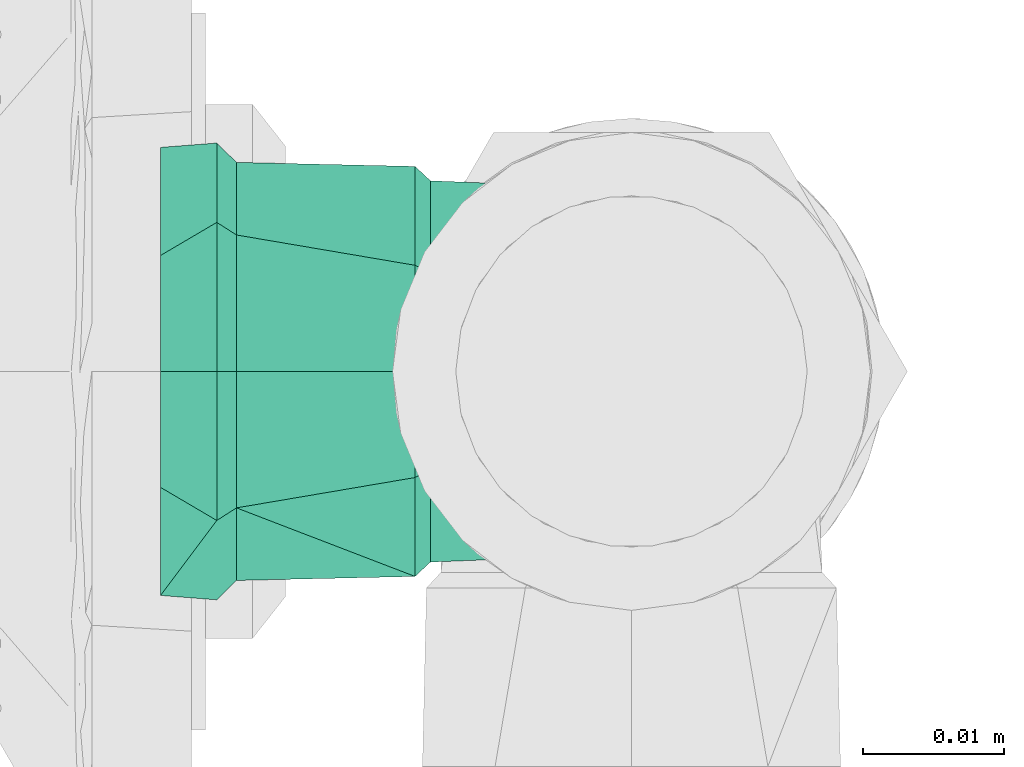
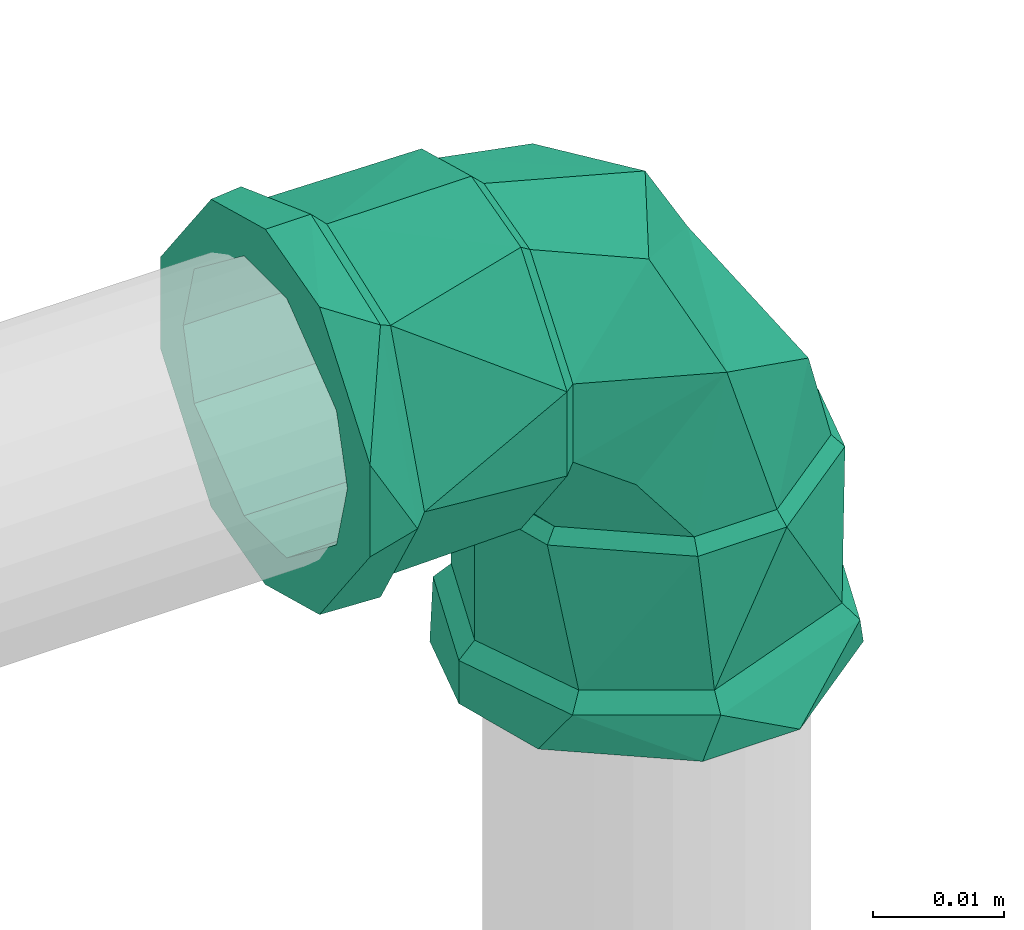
# One storey, part 375 of 589: 1 flow fitting.
"""IFC2X3 building model written with IfcOpenShell, lengths in millimetres."""

from ifc_helpers import new_model, entity, si_unit, converted_unit, derived_unit, direction, frame, origin, place, context, subcontext, project, spatial, faceted_brep, source, transform, mapped, material, type_object, type_shapes, element, save


model = new_model("IFC2X3")

# Units and contexts
model_context = context("Model", 3, precision=0.01, world=origin(), true_north=direction((6.123031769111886e-17, 1.0)))
body_context = subcontext(model_context, "Body", "Model", "MODEL_VIEW")
ifc_project = project(units=[si_unit("LENGTHUNIT", "METRE", prefix="MILLI"), si_unit("AREAUNIT", "SQUARE_METRE"), si_unit("VOLUMEUNIT", "CUBIC_METRE"), converted_unit("PLANEANGLEUNIT", "DEGREE", entity("IfcRatioMeasure", 0.017453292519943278), si_unit("PLANEANGLEUNIT", "RADIAN"), dimensions=[0, 0, 0, 0, 0, 0, 0]), si_unit("MASSUNIT", "GRAM", prefix="KILO"), derived_unit("MASSDENSITYUNIT", [(si_unit("MASSUNIT", "GRAM", prefix="KILO"), 1), (si_unit("LENGTHUNIT", "METRE"), -3)]), derived_unit("IONCONCENTRATIONUNIT", [(si_unit("MASSUNIT", "GRAM", prefix="KILO"), 1), (si_unit("LENGTHUNIT", "METRE"), -3)]), derived_unit("MOMENTOFINERTIAUNIT", [(si_unit("LENGTHUNIT", "METRE"), 4)]), si_unit("TIMEUNIT", "SECOND"), si_unit("FREQUENCYUNIT", "HERTZ"), si_unit("THERMODYNAMICTEMPERATUREUNIT", "DEGREE_CELSIUS"), derived_unit("THERMALTRANSMITTANCEUNIT", [(si_unit("MASSUNIT", "GRAM", prefix="KILO"), 1), (si_unit("THERMODYNAMICTEMPERATUREUNIT", "KELVIN"), -1), (si_unit("TIMEUNIT", "SECOND"), -3)]), derived_unit("THERMALCONDUCTANCEUNIT", [(si_unit("MASSUNIT", "GRAM", prefix="KILO"), 1), (si_unit("THERMODYNAMICTEMPERATUREUNIT", "KELVIN"), -1), (si_unit("TIMEUNIT", "SECOND"), -3), (si_unit("LENGTHUNIT", "METRE"), 1)]), derived_unit("VOLUMETRICFLOWRATEUNIT", [(si_unit("LENGTHUNIT", "METRE"), 3), (si_unit("TIMEUNIT", "SECOND"), -1)]), derived_unit("MASSFLOWRATEUNIT", [(si_unit("MASSUNIT", "GRAM", prefix="KILO"), 1), (si_unit("TIMEUNIT", "SECOND"), -1)]), derived_unit("ROTATIONALFREQUENCYUNIT", [(si_unit("TIMEUNIT", "SECOND"), -1)]), si_unit("ELECTRICCURRENTUNIT", "AMPERE"), si_unit("ELECTRICVOLTAGEUNIT", "VOLT"), si_unit("POWERUNIT", "WATT"), si_unit("FORCEUNIT", "NEWTON", prefix="KILO"), si_unit("ILLUMINANCEUNIT", "LUX"), si_unit("LUMINOUSFLUXUNIT", "LUMEN"), si_unit("LUMINOUSINTENSITYUNIT", "CANDELA"), derived_unit("USERDEFINED", [(si_unit("MASSUNIT", "GRAM", prefix="KILO"), -1), (si_unit("LENGTHUNIT", "METRE"), -2), (si_unit("TIMEUNIT", "SECOND"), 3), (si_unit("LUMINOUSFLUXUNIT", "LUMEN"), 1)]), derived_unit("USERDEFINED", [(si_unit("MASSUNIT", "GRAM", prefix="KILO"), 1), (si_unit("TIMEUNIT", "SECOND"), -3), (si_unit("LENGTHUNIT", "METRE"), 3), (si_unit("ELECTRICCURRENTUNIT", "AMPERE"), -2)]), derived_unit("SOUNDPOWERUNIT", [(si_unit("MASSUNIT", "GRAM", prefix="KILO"), 1), (si_unit("TIMEUNIT", "SECOND"), -3), (si_unit("LENGTHUNIT", "METRE"), 2)]), derived_unit("SOUNDPRESSUREUNIT", [(si_unit("MASSUNIT", "GRAM", prefix="KILO"), 1), (si_unit("LENGTHUNIT", "METRE"), -1), (si_unit("TIMEUNIT", "SECOND"), -2)]), derived_unit("LINEARVELOCITYUNIT", [(si_unit("LENGTHUNIT", "METRE"), 1), (si_unit("TIMEUNIT", "SECOND"), -1)]), si_unit("PRESSUREUNIT", "PASCAL"), derived_unit("USERDEFINED", [(si_unit("MASSUNIT", "GRAM", prefix="KILO"), 1), (si_unit("LENGTHUNIT", "METRE"), -2), (si_unit("TIMEUNIT", "SECOND"), -2)]), derived_unit("LINEARFORCEUNIT", [(si_unit("MASSUNIT", "GRAM", prefix="KILO"), 1), (si_unit("TIMEUNIT", "SECOND"), -2)]), derived_unit("PLANARFORCEUNIT", [(si_unit("MASSUNIT", "GRAM", prefix="KILO"), 1), (si_unit("LENGTHUNIT", "METRE"), -1), (si_unit("TIMEUNIT", "SECOND"), -2)]), derived_unit("SPECIFICHEATCAPACITYUNIT", [(si_unit("THERMODYNAMICTEMPERATUREUNIT", "KELVIN"), -1), (si_unit("LENGTHUNIT", "METRE"), 2), (si_unit("TIMEUNIT", "SECOND"), -2)]), derived_unit("HEATINGVALUEUNIT", [(si_unit("LENGTHUNIT", "METRE"), 2), (si_unit("TIMEUNIT", "SECOND"), -2)]), derived_unit("VAPORPERMEABILITYUNIT", [(si_unit("LENGTHUNIT", "METRE"), -1), (si_unit("TIMEUNIT", "SECOND"), 1)]), derived_unit("DYNAMICVISCOSITYUNIT", [(si_unit("MASSUNIT", "GRAM", prefix="KILO"), 1), (si_unit("TIMEUNIT", "SECOND"), -1), (si_unit("LENGTHUNIT", "METRE"), -1)]), derived_unit("THERMALEXPANSIONCOEFFICIENTUNIT", [(si_unit("THERMODYNAMICTEMPERATUREUNIT", "KELVIN"), -1)]), derived_unit("MODULUSOFELASTICITYUNIT", [(si_unit("MASSUNIT", "GRAM", prefix="KILO"), 1), (si_unit("LENGTHUNIT", "METRE"), -1), (si_unit("TIMEUNIT", "SECOND"), -2)]), derived_unit("ISOTHERMALMOISTURECAPACITYUNIT", [(si_unit("LENGTHUNIT", "METRE"), 3), (si_unit("MASSUNIT", "GRAM", prefix="KILO"), -1)]), derived_unit("MOISTUREDIFFUSIVITYUNIT", [(si_unit("TIMEUNIT", "SECOND"), -1), (si_unit("LENGTHUNIT", "METRE"), 2)])], contexts=[model_context])

# Site, building, storey
site_placement = place(None, origin())
site = spatial("IfcSite", under=ifc_project, at=site_placement, Name="Default", CompositionType="ELEMENT")
building_placement = place(site_placement, origin())
building = spatial("IfcBuilding", under=site, at=building_placement, CompositionType="ELEMENT")
storey_placement = place(building_placement, frame((0.0, 0.0, 100.0)))
storey = spatial("IfcBuildingStorey", under=building, at=storey_placement, Name="TÉRREO", CompositionType="ELEMENT", Elevation=100.0)

# Flow fitting
ifc_material = material(Name="PVC Marrom")
pipe_fitting_type = type_object("IfcPipeFittingType", Name="PVC Marrom Soldável_Joelho 45°_90°_Rodrigo MEP:Joelho", PredefinedType="NOTDEFINED", material=ifc_material)
shared_shape = source(origin(), body_context, "Body", "Brep", [
    faceted_brep([(3.908167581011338, 15.40000000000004, 14.585479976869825), (13.076983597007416, 15.40000000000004, 7.549999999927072), (15.099999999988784, 15.40000000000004, 0.0), (13.076983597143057, 15.40000000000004, -7.55000000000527), (3.9081675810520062, 15.40000000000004, -14.585479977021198), (-3.9081675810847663, 15.40000000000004, -14.585479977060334), (-13.076983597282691, 15.40000000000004, -7.550000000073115), (-15.100000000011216, 15.40000000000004, 0.0), (-13.076983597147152, 15.40000000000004, 7.549999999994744), (-3.908167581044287, 15.40000000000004, 14.585479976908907), (-3.633819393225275, 14.30000000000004, 13.561598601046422), (-12.158996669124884, 14.30000000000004, 7.0199999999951), (-14.040000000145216, 14.30000000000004, 0.0), (-12.158996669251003, 14.30000000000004, -7.020000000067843), (-3.6338193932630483, 14.30000000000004, -13.561598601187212), (3.6338193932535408, 14.30000000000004, -13.561598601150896), (12.158996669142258, 14.30000000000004, -7.020000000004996), (14.039999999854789, 14.30000000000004, 0.0), (12.158996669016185, 14.30000000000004, 7.0199999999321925), (3.6338193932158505, 14.30000000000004, 13.561598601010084)], [[[0, 1, 2, 3, 4, 5, 6, 7, 8, 9]], [[10, 11, 12, 13, 14, 15, 16, 17, 18, 19]], [[3, 17, 16]], [[4, 3, 16, 15]], [[3, 2, 17]], [[15, 14, 5, 4]], [[6, 5, 14, 13]], [[7, 13, 12]], [[7, 6, 13]], [[8, 12, 11]], [[9, 8, 11, 10]], [[8, 7, 12]], [[10, 19, 0, 9]], [[1, 0, 19, 18]], [[2, 18, 17]], [[2, 1, 18]]]),
    faceted_brep([(-15.399999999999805, 3.908167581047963, 14.585479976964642), (-15.399999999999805, 13.076983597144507, 7.549999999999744), (-15.399999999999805, 15.100000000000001, 0.0), (-15.399999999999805, 13.076983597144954, -7.54999999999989), (-15.399999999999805, 3.9081675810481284, -14.58547997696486), (-15.399999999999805, -3.9081675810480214, -14.585479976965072), (-15.399999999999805, -13.0769835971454, -7.550000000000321), (-15.399999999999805, -15.099999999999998, 0.0), (-15.399999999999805, -13.076983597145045, 7.550000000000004), (-15.399999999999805, -3.908167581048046, 14.585479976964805), (-14.299999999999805, 12.158996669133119, 7.019999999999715), (-14.299999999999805, 3.6338193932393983, 13.561598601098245), (-14.299999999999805, -3.633819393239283, 13.56159860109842), (-14.299999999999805, -12.15899666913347, 7.020000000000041), (-14.299999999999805, -14.040000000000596, 0.0), (-14.299999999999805, -12.158996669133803, -7.020000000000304), (-14.299999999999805, -3.63381939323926, -13.561598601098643), (-14.299999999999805, 3.6338193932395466, -13.56159860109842), (-14.299999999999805, 12.158996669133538, -7.019999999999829), (-14.299999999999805, 14.03999999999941, 0.0)], [[[0, 1, 2, 3, 4, 5, 6, 7, 8, 9]], [[10, 11, 12, 13, 14, 15, 16, 17, 18, 19]], [[3, 2, 19, 18]], [[4, 3, 18, 17]], [[17, 16, 5, 4]], [[6, 5, 16, 15]], [[7, 6, 15, 14]], [[8, 7, 14, 13]], [[9, 8, 13, 12]], [[12, 11, 0, 9]], [[1, 0, 11, 10]], [[2, 1, 10, 19]]]),
    faceted_brep([(-33.4999999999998, -4.2705142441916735, -15.937776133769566), (-33.4999999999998, -6.250000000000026, -10.825317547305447), (-33.4999999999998, 0.0, -12.5), (-33.4999999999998, -14.289419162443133, -8.25000000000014), (-33.4999999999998, 4.270514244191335, -15.937776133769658), (-33.4999999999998, -12.074072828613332, -3.23523806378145), (-33.4999999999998, -16.499999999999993, 0.0), (-33.4999999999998, -12.074072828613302, 3.2352380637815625), (-33.4999999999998, -14.289419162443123, 8.249999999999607), (-33.4999999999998, -6.249999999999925, 10.825317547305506), (-33.4999999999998, -4.27051424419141, 15.937776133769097), (-33.4999999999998, 0.0, 12.5), (-33.4999999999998, 4.270514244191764, 15.937776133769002), (-33.4999999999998, 6.249999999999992, 10.825317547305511), (-33.4999999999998, 14.28941916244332, 8.249999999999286), (-33.4999999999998, 12.074072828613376, 3.2352380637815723), (-33.4999999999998, 16.500000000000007, 0.0), (-33.4999999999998, 12.074072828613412, -3.235238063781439), (-33.4999999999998, 14.289419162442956, -8.250000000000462), (-33.4999999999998, 6.250000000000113, -10.82531754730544), (-29.499999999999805, 16.5, 0.0), (-29.500000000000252, 12.639142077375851, 10.606700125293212), (-29.50000000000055, 2.8633833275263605, 16.249647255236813), (-29.50000000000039, -12.64180232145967, 10.603529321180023), (-29.499999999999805, -16.499999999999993, 0.0), (-29.500000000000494, -4.889209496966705, 13.426588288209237), (-29.49999999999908, -12.641802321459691, -10.603529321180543), (-29.49999999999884, -2.8674593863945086, -16.24892847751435), (-29.499999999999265, 12.639142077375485, -10.606700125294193), (-29.499999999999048, 4.885841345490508, -13.427814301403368), (-28.099999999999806, -15.099999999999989, 0.0), (-28.10000000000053, -11.56916454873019, 9.703835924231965), (-28.100000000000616, -4.474367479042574, 12.287362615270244), (-28.1000000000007, 2.6204295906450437, 14.870889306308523), (-28.100000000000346, 11.566730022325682, 9.706737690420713), (-28.09999999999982, 15.099999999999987, 0.0), (-28.099999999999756, 11.566730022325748, -9.706737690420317), (-28.09999999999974, 4.4712851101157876, -12.28848460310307), (-28.09999999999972, -2.6241598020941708, -14.870231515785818), (-28.09999999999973, -11.569164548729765, -9.703835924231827), (-15.399999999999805, 0.0, -12.5), (-15.399999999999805, -6.250000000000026, -10.825317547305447), (-15.399999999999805, -3.908167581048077, -14.585479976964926), (-15.399999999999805, 3.9081675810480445, -14.585479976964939), (-15.399999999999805, 6.250000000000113, -10.82531754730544), (-15.399999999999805, -13.076983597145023, -7.549999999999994), (-15.399999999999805, -12.074072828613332, -3.23523806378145), (-15.399999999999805, -15.099999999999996, 0.0), (-15.399999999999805, -12.074072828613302, 3.2352380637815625), (-15.399999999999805, -13.076983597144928, 7.550000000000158), (-15.399999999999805, -6.249999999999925, 10.825317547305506), (-15.399999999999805, -3.9081675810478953, 14.585479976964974), (-15.399999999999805, 0.0, 12.5), (-15.399999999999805, 3.9081675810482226, 14.58547997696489), (-15.399999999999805, 6.249999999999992, 10.825317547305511), (-15.399999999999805, 13.076983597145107, 7.549999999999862), (-15.399999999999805, 12.074072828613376, 3.2352380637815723), (-15.399999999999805, 15.100000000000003, 0.0), (-15.399999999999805, 12.074072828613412, -3.235238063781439), (-15.399999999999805, 13.076983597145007, -7.550000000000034)], [[[0, 1, 2]], [[1, 0, 3]], [[2, 4, 0]], [[3, 5, 1]], [[3, 6, 5]], [[5, 6, 7]], [[8, 7, 6]], [[7, 8, 9]], [[10, 9, 8]], [[9, 10, 11]], [[11, 10, 12]], [[12, 13, 11]], [[14, 13, 12]], [[13, 14, 15]], [[16, 15, 14]], [[16, 17, 15]], [[18, 17, 16]], [[19, 17, 18]], [[19, 18, 4]], [[4, 2, 19]], [[16, 14, 20]], [[14, 21, 20]], [[21, 14, 12]], [[21, 12, 22]], [[23, 10, 8]], [[24, 8, 6]], [[10, 23, 25, 22]], [[23, 8, 24]], [[10, 22, 12]], [[6, 3, 24]], [[3, 26, 24]], [[26, 3, 0]], [[26, 0, 27]], [[28, 4, 18]], [[20, 18, 16]], [[4, 28, 29, 27]], [[28, 18, 20]], [[4, 27, 0]], [[30, 31, 23, 24]], [[31, 32, 33, 22, 25, 23]], [[34, 35, 20, 21]], [[34, 21, 22, 33]], [[35, 36, 28, 20]], [[36, 37, 38, 27, 29, 28]], [[39, 30, 24, 26]], [[39, 26, 27, 38]], [[40, 41, 42]], [[42, 43, 40]], [[44, 40, 43]], [[45, 42, 41]], [[41, 46, 45]], [[46, 47, 45]], [[48, 47, 46]], [[47, 48, 49]], [[50, 49, 48]], [[49, 50, 51]], [[52, 51, 50]], [[53, 51, 52]], [[52, 54, 53]], [[53, 54, 55]], [[56, 55, 54]], [[55, 56, 57]], [[56, 58, 57]], [[59, 58, 44]], [[57, 58, 59]], [[43, 59, 44]], [[35, 34, 55]], [[35, 55, 57]], [[55, 34, 53]], [[34, 33, 53]], [[51, 33, 32, 31]], [[49, 31, 30]], [[31, 49, 51]], [[49, 30, 47]], [[33, 51, 53]], [[30, 39, 45]], [[30, 45, 47]], [[45, 39, 42]], [[39, 38, 42]], [[43, 38, 37, 36]], [[59, 36, 35]], [[36, 59, 43]], [[59, 35, 57]], [[38, 43, 42]], [[9, 11, 52, 50]], [[7, 9, 50, 48]], [[48, 46, 5, 7]], [[1, 5, 46, 41]], [[2, 1, 41, 40]], [[19, 2, 40, 44]], [[17, 19, 44, 58]], [[58, 56, 15, 17]], [[13, 15, 56, 54]], [[11, 13, 54, 52]]]),
    faceted_brep([(-14.299999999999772, -3.6338193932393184, -13.561598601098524), (-14.299999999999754, -12.158996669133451, -7.020000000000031), (-14.29999999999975, -14.039999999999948, 0.0), (-14.299999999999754, -12.158996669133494, 7.019999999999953), (-14.299999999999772, -3.6338193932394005, 13.561598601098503), (-14.299999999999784, 3.633819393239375, 13.561598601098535), (-14.299999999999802, 12.158996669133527, 7.0200000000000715), (-14.299999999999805, 14.04000000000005, 0.0), (-14.299999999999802, 12.158996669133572, -7.019999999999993), (-14.299999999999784, 3.63381939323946, -13.561598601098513), (3.633819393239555, 14.29999999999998, -13.561598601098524), (-3.633819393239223, 14.300000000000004, -13.561598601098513), (-12.158996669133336, 14.300000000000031, -7.019999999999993), (-14.039999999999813, 14.300000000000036, 0.0), (-12.158996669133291, 14.300000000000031, 7.0200000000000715), (-3.6338193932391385, 14.300000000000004, 13.561598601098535), (3.6338193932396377, 14.29999999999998, 13.561598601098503), (12.158996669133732, 14.299999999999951, 7.019999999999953), (14.040000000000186, 14.299999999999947, 0.0), (12.158996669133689, 14.299999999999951, -7.020000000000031), (-0.45476175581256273, 0.4547603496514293, 13.009299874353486), (-4.991226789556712, -9.102895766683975, 8.866254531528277), (-2.689013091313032, -7.336393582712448, 0.0), (3.7770734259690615, -3.6031967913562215, 0.0), (9.09033094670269, 4.905775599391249, 8.841582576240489), (10.243159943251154, 0.13000000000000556, 0.0), (-14.116152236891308, 14.116152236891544, 0.0), (-8.296884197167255, 8.29688403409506, 12.78130953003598), (-0.454761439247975, 0.45476027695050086, -13.009299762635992), (-8.296884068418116, 8.296883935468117, -12.78130960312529), (9.090330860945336, 4.90577564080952, -8.84158269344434), (-4.991226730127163, -9.10289574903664, -8.866254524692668)], [[[0, 1, 2, 3, 4, 5, 6, 7, 8, 9]], [[10, 11, 12, 13, 14, 15, 16, 17, 18, 19]], [[4, 20, 5]], [[21, 3, 22]], [[20, 4, 21]], [[21, 22, 23]], [[17, 24, 25]], [[26, 6, 14]], [[23, 20, 21]], [[26, 7, 6]], [[6, 5, 27]], [[3, 2, 22]], [[20, 23, 24]], [[25, 18, 17]], [[20, 27, 5]], [[16, 20, 24]], [[17, 16, 24]], [[6, 27, 14]], [[26, 14, 13]], [[21, 4, 3]], [[27, 15, 14]], [[27, 20, 15]], [[23, 25, 24]], [[15, 20, 16]], [[8, 7, 26]], [[28, 29, 11]], [[28, 10, 30]], [[8, 12, 29]], [[31, 22, 1]], [[31, 23, 22]], [[28, 9, 29]], [[19, 30, 10]], [[0, 28, 31]], [[1, 22, 2]], [[8, 26, 12]], [[12, 11, 29]], [[8, 29, 9]], [[31, 1, 0]], [[10, 28, 11]], [[30, 19, 25]], [[0, 9, 28]], [[19, 18, 25]], [[25, 23, 30]], [[23, 31, 28]], [[30, 23, 28]], [[12, 26, 13]]]),
    faceted_brep([(0.0, 15.40000000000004, -12.5), (-6.249999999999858, 15.40000000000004, -10.825317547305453), (-3.908167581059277, 15.40000000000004, -14.585479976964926), (3.9081675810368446, 15.40000000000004, -14.585479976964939), (6.250000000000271, 15.40000000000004, -10.82531754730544), (-13.076983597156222, 15.40000000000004, -7.549999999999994), (-12.07407282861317, 15.40000000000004, -3.235238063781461), (-15.100000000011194, 15.40000000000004, 0.0), (-12.074072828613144, 15.40000000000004, 3.2352380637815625), (-13.076983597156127, 15.40000000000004, 7.550000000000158), (-6.249999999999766, 15.40000000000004, 10.825317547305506), (-3.9081675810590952, 15.40000000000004, 14.585479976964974), (0.0, 15.40000000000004, 12.5), (3.9081675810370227, 15.40000000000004, 14.58547997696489), (6.250000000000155, 15.40000000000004, 10.825317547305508), (13.076983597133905, 15.40000000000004, 7.549999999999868), (12.074072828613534, 15.40000000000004, 3.2352380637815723), (15.099999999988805, 15.40000000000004, 0.0), (12.07407282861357, 15.40000000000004, -3.235238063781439), (13.07698359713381, 15.40000000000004, -7.550000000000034), (15.099999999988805, 28.10000000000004, 0.0), (11.56673002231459, 28.100000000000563, 9.706737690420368), (4.471285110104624, 28.10000000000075, 12.288484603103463), (-2.624159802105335, 28.100000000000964, 14.870231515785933), (-11.569164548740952, 28.10000000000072, 9.703835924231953), (-15.100000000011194, 28.10000000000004, 0.0), (-11.569164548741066, 28.10000000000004, -9.703835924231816), (-4.474367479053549, 28.10000000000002, -12.287362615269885), (2.6204295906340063, 28.099999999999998, -14.870889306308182), (11.566730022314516, 28.10000000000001, -9.706737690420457), (-12.639142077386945, 29.50000000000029, 10.606700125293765), (-16.50000000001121, 29.500000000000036, 0.0), (-2.8633833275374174, 29.50000000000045, 16.249647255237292), (12.641802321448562, 29.500000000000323, 10.603529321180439), (4.889209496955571, 29.500000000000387, 13.426588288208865), (16.499999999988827, 29.50000000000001, 0.0), (12.64180232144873, 29.500000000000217, -10.603529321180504), (2.867459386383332, 29.500000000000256, -16.24892847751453), (-12.639142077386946, 29.500000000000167, -10.606700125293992), (-4.885841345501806, 29.500000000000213, -13.427814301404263), (-4.270514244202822, 33.50000000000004, -15.937776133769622), (-6.249999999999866, 33.50000000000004, -10.825317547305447), (0.0, 33.50000000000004, -12.5), (-14.289419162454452, 33.50000000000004, -8.249999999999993), (4.270514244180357, 33.50000000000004, -15.937776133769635), (-12.074072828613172, 33.50000000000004, -3.23523806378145), (-16.50000000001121, 33.50000000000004, 0.0), (-12.074072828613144, 33.50000000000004, 3.2352380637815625), (-14.28941916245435, 33.50000000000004, 8.250000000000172), (-6.2499999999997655, 33.50000000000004, 10.825317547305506), (-4.270514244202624, 33.50000000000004, 15.937776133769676), (0.0, 33.50000000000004, 12.5), (4.270514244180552, 33.50000000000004, 15.937776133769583), (6.250000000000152, 33.50000000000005, 10.825317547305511), (14.289419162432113, 33.50000000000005, 8.249999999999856), (12.074072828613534, 33.50000000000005, 3.2352380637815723), (16.49999999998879, 33.50000000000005, 0.0), (12.07407282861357, 33.50000000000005, -3.235238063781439), (14.289419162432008, 33.50000000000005, -8.250000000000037), (6.250000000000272, 33.50000000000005, -10.82531754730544)], [[[0, 1, 2]], [[2, 3, 0]], [[4, 0, 3]], [[5, 2, 1]], [[1, 6, 5]], [[6, 7, 5]], [[8, 7, 6]], [[7, 8, 9]], [[10, 9, 8]], [[9, 10, 11]], [[12, 11, 10]], [[13, 11, 12]], [[12, 14, 13]], [[13, 14, 15]], [[16, 15, 14]], [[15, 16, 17]], [[16, 18, 17]], [[19, 18, 4]], [[17, 18, 19]], [[3, 19, 4]], [[20, 21, 15]], [[20, 15, 17]], [[15, 21, 13]], [[13, 21, 22, 23]], [[11, 23, 24]], [[9, 24, 25]], [[24, 9, 11]], [[9, 25, 7]], [[23, 11, 13]], [[25, 26, 5]], [[25, 5, 7]], [[5, 26, 2]], [[2, 26, 27, 28]], [[3, 28, 29]], [[19, 29, 20]], [[29, 19, 3]], [[19, 20, 17]], [[28, 3, 2]], [[24, 23, 30]], [[25, 24, 31]], [[31, 24, 30]], [[23, 32, 30]], [[21, 20, 33]], [[21, 33, 34]], [[22, 32, 23]], [[35, 33, 20]], [[32, 22, 34]], [[22, 21, 34]], [[20, 29, 36]], [[36, 35, 20]], [[37, 36, 29]], [[38, 39, 27]], [[29, 28, 37]], [[26, 25, 31]], [[38, 27, 26]], [[38, 26, 31]], [[28, 39, 37]], [[39, 28, 27]], [[40, 41, 42]], [[41, 40, 43]], [[42, 44, 40]], [[43, 45, 41]], [[43, 46, 45]], [[45, 46, 47]], [[48, 47, 46]], [[47, 48, 49]], [[50, 49, 48]], [[49, 50, 51]], [[51, 50, 52]], [[52, 53, 51]], [[54, 53, 52]], [[53, 54, 55]], [[56, 55, 54]], [[56, 57, 55]], [[58, 57, 56]], [[59, 57, 58]], [[59, 58, 44]], [[44, 42, 59]], [[56, 54, 35]], [[54, 33, 35]], [[33, 54, 52]], [[52, 32, 34, 33]], [[30, 50, 48]], [[31, 48, 46]], [[50, 30, 32]], [[30, 48, 31]], [[50, 32, 52]], [[46, 43, 31]], [[43, 38, 31]], [[38, 43, 40]], [[40, 37, 39, 38]], [[36, 44, 58]], [[35, 58, 56]], [[44, 36, 37]], [[36, 58, 35]], [[44, 37, 40]], [[49, 51, 12, 10]], [[47, 49, 10, 8]], [[8, 6, 45, 47]], [[41, 45, 6, 1]], [[42, 41, 1, 0]], [[59, 42, 0, 4]], [[57, 59, 4, 18]], [[18, 16, 55, 57]], [[53, 55, 16, 14]], [[51, 53, 14, 12]]]),
])
type_shapes(pipe_fitting_type, [shared_shape])
flow_fitting_placement = place(storey_placement, frame((-2746.898265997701, 1275.9612263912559, 3000.0), z_axis=(0.0, -1.0, 0.0), x_axis=(0.0, 0.0, 1.0)))
element("IfcFlowFitting", 1, at=flow_fitting_placement, inside=storey, type_object=pipe_fitting_type, material=ifc_material, Name="PVC Marrom Soldável_Joelho 45°_90°_Rodrigo MEP:Joelho", ObjectType="PVC Marrom Soldável_Joelho 45°_90°_Rodrigo MEP:Joelho", context=body_context, shape_type="MappedRepresentation", body=[
    mapped(shared_shape, transform((0.0, 0.0, 0.0), scale=1.0)),
])

save(model, "model.ifc")
